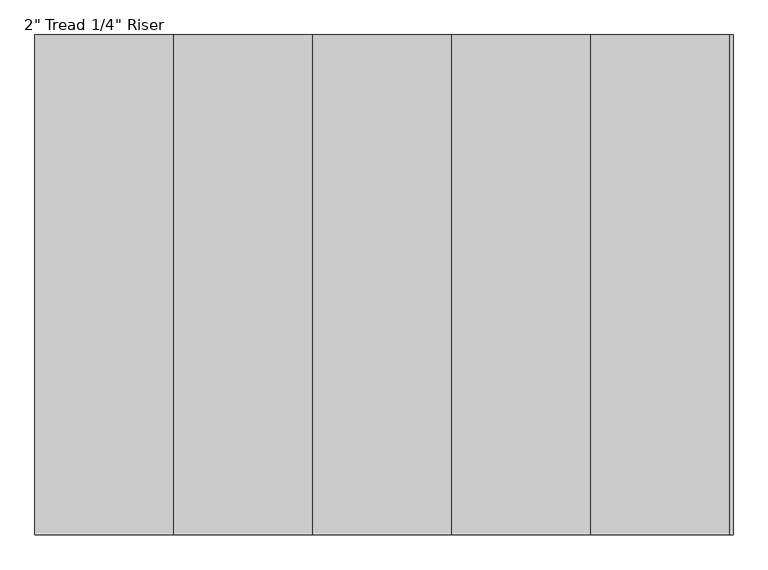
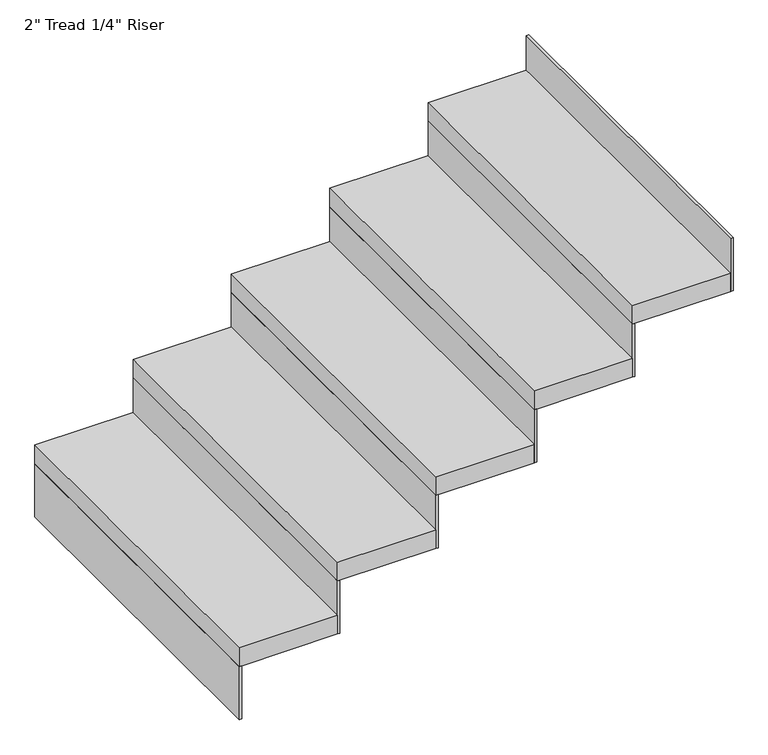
"""IFC4 building model written with IfcOpenShell, lengths in millimetres: stair flight geometry."""

from ifc_helpers import new_model, si_unit, frame, origin, place, context, project, spatial, polyline, outline, extrude, source, transform, mapped, element, save


def stair_flight_89b698f5(model_context):
    return source(origin(), model_context, "Body", "SweptSolid", [
        extrude(outline(polyline([(89079.3548368, 32313.9530185), (89073.0048368, 32313.9530185), (89073.0048368, 33228.3530185), (89079.3548368, 33228.3530185), (89079.3548368, 32313.9530185)])), frame((0.0, 0.0, 2126.3428571), z_axis=(0.0, 0.0, 1.0), x_axis=(1.0, 0.0, 0.0)), (0.0, 0.0, 1.0), 145.1428571),
        extrude(outline(polyline([(89327.0048368, 33228.3530185), (89327.0048368, 32313.9530185), (89073.0048368, 32313.9530185), (89073.0048368, 33228.3530185), (89327.0048368, 33228.3530185)])), frame((0.0, 0.0, 2271.4857143), z_axis=(0.0, 0.0, 1.0), x_axis=(1.0, 0.0, 0.0)), (0.0, 0.0, 1.0), 50.8),
        extrude(outline(polyline([(89333.3548368, 32313.9530185), (89327.0048368, 32313.9530185), (89327.0048368, 33228.3530185), (89333.3548368, 33228.3530185), (89333.3548368, 32313.9530185)])), frame((0.0, 0.0, 2271.4857143), z_axis=(0.0, 0.0, 1.0), x_axis=(1.0, 0.0, 0.0)), (0.0, 0.0, 1.0), 145.1428571),
        extrude(outline(polyline([(89581.0048368, 33228.3530185), (89581.0048368, 32313.9530185), (89327.0048368, 32313.9530185), (89327.0048368, 33228.3530185), (89581.0048368, 33228.3530185)])), frame((0.0, 0.0, 2416.6285714), z_axis=(0.0, 0.0, 1.0), x_axis=(1.0, 0.0, 0.0)), (0.0, 0.0, 1.0), 50.8),
        extrude(outline(polyline([(89587.3548368, 32313.9530185), (89581.0048368, 32313.9530185), (89581.0048368, 33228.3530185), (89587.3548368, 33228.3530185), (89587.3548368, 32313.9530185)])), frame((0.0, 0.0, 2416.6285714), z_axis=(0.0, 0.0, 1.0), x_axis=(1.0, 0.0, 0.0)), (0.0, 0.0, 1.0), 145.1428571),
        extrude(outline(polyline([(89835.0048368, 33228.3530185), (89835.0048368, 32313.9530185), (89581.0048368, 32313.9530185), (89581.0048368, 33228.3530185), (89835.0048368, 33228.3530185)])), frame((0.0, 0.0, 2561.7714286), z_axis=(0.0, 0.0, 1.0), x_axis=(1.0, 0.0, 0.0)), (0.0, 0.0, 1.0), 50.8),
        extrude(outline(polyline([(89841.3548368, 32313.9530185), (89835.0048368, 32313.9530185), (89835.0048368, 33228.3530185), (89841.3548368, 33228.3530185), (89841.3548368, 32313.9530185)])), frame((0.0, 0.0, 2561.7714286), z_axis=(0.0, 0.0, 1.0), x_axis=(1.0, 0.0, 0.0)), (0.0, 0.0, 1.0), 145.1428571),
        extrude(outline(polyline([(90089.0048368, 33228.3530185), (90089.0048368, 32313.9530185), (89835.0048368, 32313.9530185), (89835.0048368, 33228.3530185), (90089.0048368, 33228.3530185)])), frame((0.0, 0.0, 2706.9142857), z_axis=(0.0, 0.0, 1.0), x_axis=(1.0, 0.0, 0.0)), (0.0, 0.0, 1.0), 50.8),
        extrude(outline(polyline([(90095.3548368, 32313.9530185), (90089.0048368, 32313.9530185), (90089.0048368, 33228.3530185), (90095.3548368, 33228.3530185), (90095.3548368, 32313.9530185)])), frame((0.0, 0.0, 2706.9142857), z_axis=(0.0, 0.0, 1.0), x_axis=(1.0, 0.0, 0.0)), (0.0, 0.0, 1.0), 145.1428571),
        extrude(outline(polyline([(90349.3548368, 32313.9530185), (90343.0048368, 32313.9530185), (90343.0048368, 33228.3530185), (90349.3548368, 33228.3530185), (90349.3548368, 32313.9530185)])), frame((0.0, 0.0, 2852.0571429), z_axis=(0.0, 0.0, 1.0), x_axis=(1.0, 0.0, 0.0)), (0.0, 0.0, 1.0), 145.1428571),
        extrude(outline(polyline([(90343.0048368, 33228.3530185), (90343.0048368, 32313.9530185), (90089.0048368, 32313.9530185), (90089.0048368, 33228.3530185), (90343.0048368, 33228.3530185)])), frame((0.0, 0.0, 2852.0571429), z_axis=(0.0, 0.0, 1.0), x_axis=(1.0, 0.0, 0.0)), (0.0, 0.0, 1.0), 50.8),
    ])


if __name__ == "__main__":
    model = new_model("IFC4")
    model_context = context("Model", 3, world=origin())
    ifc_project = project(units=[si_unit("LENGTHUNIT", "METRE", prefix="MILLI")], contexts=[model_context])
    site = spatial("IfcSite", under=ifc_project)
    building = spatial("IfcBuilding", under=site)
    placement = place(None, origin())
    stair_flight_shape = stair_flight_89b698f5(model_context)
    element("IfcStairFlight", 1, ObjectType="2\" Tread 1/4\" Riser", at=placement, inside=building, context=model_context, shape_type="MappedRepresentation", body=[
        mapped(stair_flight_shape, transform((0.0, 0.0, 0.0), x_axis=(1.0, 0.0, 0.0), y_axis=(0.0, 1.0, 0.0), z_axis=(0.0, 0.0, 1.0))),
    ])
    save(model, "model.ifc")
